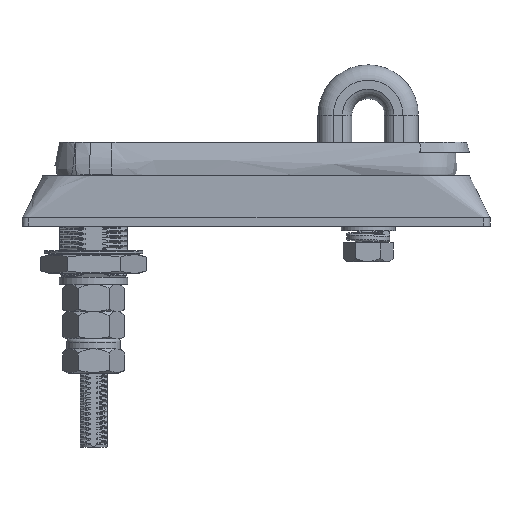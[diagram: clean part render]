
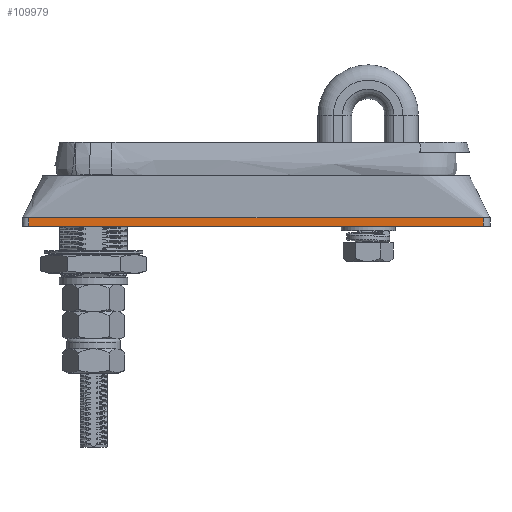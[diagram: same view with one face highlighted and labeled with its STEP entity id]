
A CAD part, left-side view. The second image highlights one B-rep face of the part: STEP entity #109979.
In plain terms, the highlighted planar face has unit normal (-1, 0, 0).
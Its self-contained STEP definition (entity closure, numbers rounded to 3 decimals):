
#2797 = CARTESIAN_POINT ( 'NONE',  ( -15.6, 66.9, 0. ) ) ;
#36495 = CARTESIAN_POINT ( 'NONE',  ( -15.6, 35.019, 0. ) ) ;
#49599 = DIRECTION ( 'NONE',  ( 0., 1., 0. ) ) ;
#53085 = CARTESIAN_POINT ( 'NONE',  ( -15.6, -66.9, 0. ) ) ;
#88552 = VERTEX_POINT ( 'NONE', #600862 ) ;
#93656 = PLANE ( 'NONE',  #458706 ) ;
#109979 = ADVANCED_FACE ( 'NONE', ( #297590 ), #93656, .F. ) ;
#127630 = VECTOR ( 'NONE', #389071, 1000. ) ;
#133868 = CARTESIAN_POINT ( 'NONE',  ( -15.6, -56.672, 0. ) ) ;
#136959 = CARTESIAN_POINT ( 'NONE',  ( -15.6, -66.9, 0. ) ) ;
#144933 = CARTESIAN_POINT ( 'NONE',  ( -15.6, 66.9, -2.5 ) ) ;
#156714 = EDGE_LOOP ( 'NONE', ( #542563, #266725, #399398, #385831 ) ) ;
#167988 = VECTOR ( 'NONE', #339621, 1000. ) ;
#176260 = CARTESIAN_POINT ( 'NONE',  ( -15.6, -66.9, 0. ) ) ;
#231220 = CARTESIAN_POINT ( 'NONE',  ( -15.6, 0., 0. ) ) ;
#266725 = ORIENTED_EDGE ( 'NONE', *, *, #348632, .F. ) ;
#297590 = FACE_OUTER_BOUND ( 'NONE', #156714, .T. ) ;
#325186 = EDGE_CURVE ( 'NONE', #488785, #422053, #537413, .T. ) ;
#336495 = EDGE_CURVE ( 'NONE', #88552, #488785, #351245, .T. ) ;
#339621 = DIRECTION ( 'NONE',  ( 0., -1., 0. ) ) ;
#348632 = EDGE_CURVE ( 'NONE', #369628, #422053, #361697, .T. ) ;
#351245 = LINE ( 'NONE', #2797, #127630 ) ;
#361697 = LINE ( 'NONE', #176260, #602357 ) ;
#363716 = EDGE_CURVE ( 'NONE', #88552, #369628, #530782, .T. ) ;
#367839 = DIRECTION ( 'NONE',  ( 0., 0., -1. ) ) ;
#369628 = VERTEX_POINT ( 'NONE', #53085 ) ;
#378744 = CARTESIAN_POINT ( 'NONE',  ( -15.6, 56.672, 0. ) ) ;
#379478 = DIRECTION ( 'NONE',  ( 1., 0., 0. ) ) ;
#385831 = ORIENTED_EDGE ( 'NONE', *, *, #336495, .T. ) ;
#389071 = DIRECTION ( 'NONE',  ( 0., 0., -1. ) ) ;
#399398 = ORIENTED_EDGE ( 'NONE', *, *, #363716, .F. ) ;
#422053 = VERTEX_POINT ( 'NONE', #546209 ) ;
#425887 = CARTESIAN_POINT ( 'NONE',  ( -15.6, -35.019, 0. ) ) ;
#434475 = CARTESIAN_POINT ( 'NONE',  ( -15.6, 66.9, -2.5 ) ) ;
#438992 = CARTESIAN_POINT ( 'NONE',  ( -15.6, 66.9, 0. ) ) ;
#458706 = AXIS2_PLACEMENT_3D ( 'NONE', #438992, #379478, #49599 ) ;
#488785 = VERTEX_POINT ( 'NONE', #434475 ) ;
#530782 = B_SPLINE_CURVE_WITH_KNOTS ( 'NONE', 3,
 ( #557993, #378744, #36495, #231220, #425887, #133868, #136959 ),
 .UNSPECIFIED., .F., .F.,
 ( 4, 1, 1, 1, 4 ),
 ( 0., 0.25, 0.5, 0.75, 1. ),
 .UNSPECIFIED. ) ;
#537413 = LINE ( 'NONE', #144933, #167988 ) ;
#542563 = ORIENTED_EDGE ( 'NONE', *, *, #325186, .T. ) ;
#546209 = CARTESIAN_POINT ( 'NONE',  ( -15.6, -66.9, -2.5 ) ) ;
#557993 = CARTESIAN_POINT ( 'NONE',  ( -15.6, 66.9, 0. ) ) ;
#600862 = CARTESIAN_POINT ( 'NONE',  ( -15.6, 66.9, 0. ) ) ;
#602357 = VECTOR ( 'NONE', #367839, 1000. ) ;
